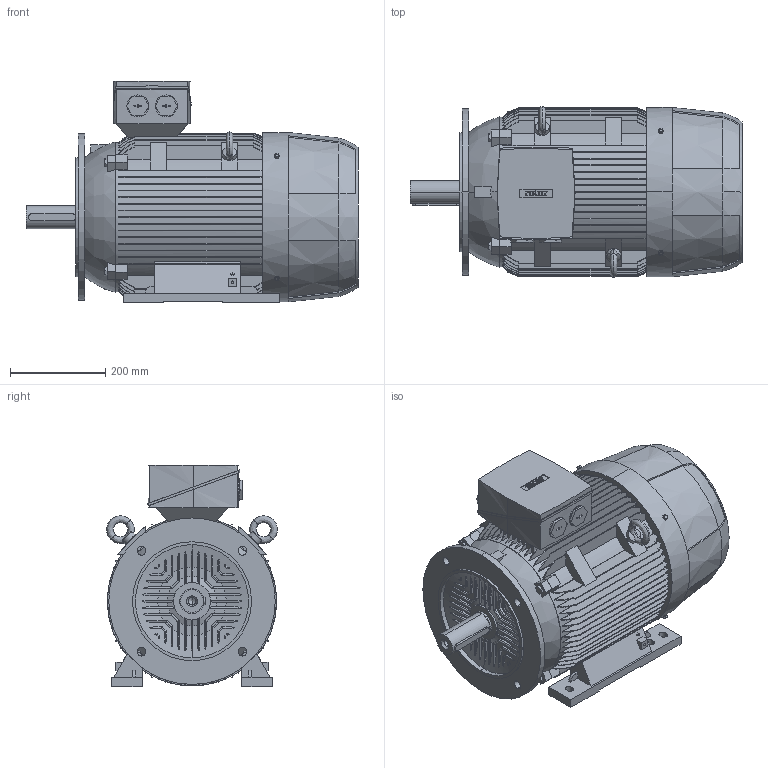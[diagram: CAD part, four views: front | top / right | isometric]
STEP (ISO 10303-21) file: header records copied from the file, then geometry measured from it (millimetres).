
FILE_DESCRIPTION (( 'STEP AP203' ), '1' );
FILE_NAME ('6RN180L02E26 IM2041.STEP', '2017-01-04T09:26:00', ( 'rotor' ), ( 'Hewlett-Packard Company' ), 'SwSTEP 2.0', 'SolidWorks 2015', '' );
FILE_SCHEMA (( 'CONFIG_CONTROL_DESIGN' ));
Length unit declared in the file: millimetre
Products named in the file (1): 6RN180L02E26 IM2041
Bounding box: 698 x 358.44 x 466 mm (x, y, z)
Volume: 53306977.6 mm3; surface area: 1952079.7 mm2
Topology: 1 solids, 1 shells, 1331 faces, 3707 edges, 2439 vertices
Faces by surface type: plane 820, cylinder 291, bspline 194, cone 26
Entity records: 50994 total; most frequent: CARTESIAN_POINT 19114, ORIENTED_EDGE 7410, DIRECTION 5574, EDGE_CURVE 3705, VERTEX_POINT 2439, LINE 1980, VECTOR 1980, AXIS2_PLACEMENT_3D 1797
